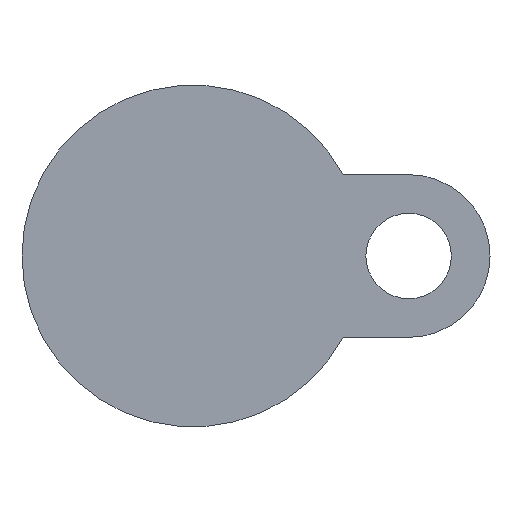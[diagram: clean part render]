
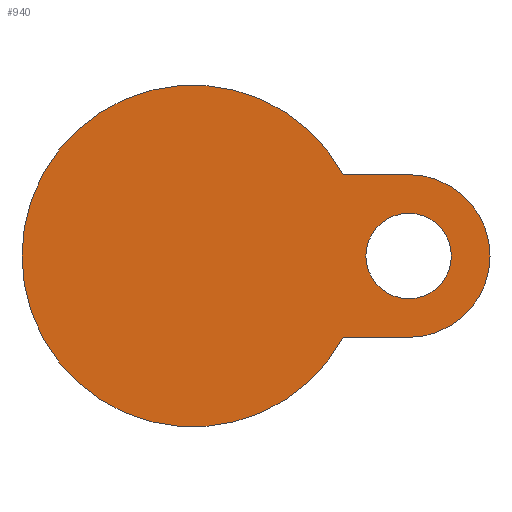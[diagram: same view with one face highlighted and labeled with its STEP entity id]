
A CAD part, front view. The second image highlights one B-rep face of the part: STEP entity #940.
In plain terms, the highlighted planar face has unit normal (0, -1, 0).
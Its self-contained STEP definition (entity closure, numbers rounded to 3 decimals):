
#57 = CARTESIAN_POINT ( 'NONE',  ( 21.25, -12., 0. ) ) ;
#213 = VERTEX_POINT ( 'NONE', #255 ) ;
#217 = DIRECTION ( 'NONE',  ( 1., 0., 0. ) ) ;
#255 = CARTESIAN_POINT ( 'NONE',  ( 26.5, -12., 10. ) ) ;
#502 = CIRCLE ( 'NONE', #4614, 21. ) ;
#578 = EDGE_CURVE ( 'NONE', #5504, #2635, #502, .T. ) ;
#601 = DIRECTION ( 'NONE',  ( 0., 1., 0. ) ) ;
#697 = DIRECTION ( 'NONE',  ( 1., 0., 0. ) ) ;
#888 = CARTESIAN_POINT ( 'NONE',  ( 26.5, -12., 0. ) ) ;
#940 = ADVANCED_FACE ( 'NONE', ( #3807, #2116 ), #4204, .T. ) ;
#955 = DIRECTION ( 'NONE',  ( -1., 0., 0. ) ) ;
#975 = DIRECTION ( 'NONE',  ( 0., -1., 0. ) ) ;
#1016 = EDGE_CURVE ( 'NONE', #5241, #2957, #3891, .T. ) ;
#1053 = CARTESIAN_POINT ( 'NONE',  ( 11.379, -12., 10. ) ) ;
#1131 = CIRCLE ( 'NONE', #3194, 5.25 ) ;
#1134 = DIRECTION ( 'NONE',  ( 1., 0., 0. ) ) ;
#1175 = DIRECTION ( 'NONE',  ( 0., -1., 0. ) ) ;
#1252 = ORIENTED_EDGE ( 'NONE', *, *, #2092, .T. ) ;
#1263 = CARTESIAN_POINT ( 'NONE',  ( 18.466, -12., -10. ) ) ;
#1354 = CARTESIAN_POINT ( 'NONE',  ( -21., -12., 0. ) ) ;
#1445 = LINE ( 'NONE', #1053, #4009 ) ;
#1536 = DIRECTION ( 'NONE',  ( 0., -1., 0. ) ) ;
#1612 = ORIENTED_EDGE ( 'NONE', *, *, #3061, .F. ) ;
#1642 = ORIENTED_EDGE ( 'NONE', *, *, #578, .F. ) ;
#1702 = CARTESIAN_POINT ( 'NONE',  ( 26.5, -12., -10. ) ) ;
#1722 = ORIENTED_EDGE ( 'NONE', *, *, #1016, .T. ) ;
#1758 = DIRECTION ( 'NONE',  ( 1., 0., 0. ) ) ;
#1792 = CIRCLE ( 'NONE', #4839, 5.25 ) ;
#1852 = ORIENTED_EDGE ( 'NONE', *, *, #4575, .T. ) ;
#1884 = DIRECTION ( 'NONE',  ( -1., 0., 0. ) ) ;
#1886 = AXIS2_PLACEMENT_3D ( 'NONE', #888, #2396, #1134 ) ;
#1936 = EDGE_CURVE ( 'NONE', #4084, #5399, #1131, .T. ) ;
#1942 = CARTESIAN_POINT ( 'NONE',  ( 36.5, -12., 0. ) ) ;
#2058 = AXIS2_PLACEMENT_3D ( 'NONE', #4818, #2768, #5317 ) ;
#2071 = CARTESIAN_POINT ( 'NONE',  ( 18.466, -12., 10. ) ) ;
#2092 = EDGE_CURVE ( 'NONE', #213, #2635, #1445, .T. ) ;
#2116 = FACE_BOUND ( 'NONE', #3501, .T. ) ;
#2167 = DIRECTION ( 'NONE',  ( 1., 0., 0. ) ) ;
#2241 = AXIS2_PLACEMENT_3D ( 'NONE', #3128, #975, #2167 ) ;
#2257 = CARTESIAN_POINT ( 'NONE',  ( 26.5, -12., -10. ) ) ;
#2305 = VERTEX_POINT ( 'NONE', #1942 ) ;
#2396 = DIRECTION ( 'NONE',  ( 0., -1., 0. ) ) ;
#2445 = ORIENTED_EDGE ( 'NONE', *, *, #2992, .F. ) ;
#2466 = VECTOR ( 'NONE', #1758, 1000. ) ;
#2635 = VERTEX_POINT ( 'NONE', #2071 ) ;
#2768 = DIRECTION ( 'NONE',  ( 0., 1., 0. ) ) ;
#2779 = CARTESIAN_POINT ( 'NONE',  ( 31.75, -12., 0. ) ) ;
#2957 = VERTEX_POINT ( 'NONE', #1702 ) ;
#2992 = EDGE_CURVE ( 'NONE', #5399, #4084, #1792, .T. ) ;
#3061 = EDGE_CURVE ( 'NONE', #5241, #5504, #3763, .T. ) ;
#3128 = CARTESIAN_POINT ( 'NONE',  ( 26.5, -12., 0. ) ) ;
#3141 = CARTESIAN_POINT ( 'NONE',  ( 0., -12., 0. ) ) ;
#3194 = AXIS2_PLACEMENT_3D ( 'NONE', #5030, #1536, #697 ) ;
#3222 = ORIENTED_EDGE ( 'NONE', *, *, #1936, .F. ) ;
#3449 = AXIS2_PLACEMENT_3D ( 'NONE', #4253, #1175, #5119 ) ;
#3501 = EDGE_LOOP ( 'NONE', ( #3222, #2445 ) ) ;
#3763 = CIRCLE ( 'NONE', #2058, 21. ) ;
#3807 = FACE_OUTER_BOUND ( 'NONE', #4743, .T. ) ;
#3891 = LINE ( 'NONE', #2257, #2466 ) ;
#4009 = VECTOR ( 'NONE', #1884, 1000. ) ;
#4011 = CARTESIAN_POINT ( 'NONE',  ( 26.5, -12., 0. ) ) ;
#4064 = DIRECTION ( 'NONE',  ( 0., -1., 0. ) ) ;
#4084 = VERTEX_POINT ( 'NONE', #2779 ) ;
#4204 = PLANE ( 'NONE',  #3449 ) ;
#4253 = CARTESIAN_POINT ( 'NONE',  ( 0., -12., 0. ) ) ;
#4303 = CIRCLE ( 'NONE', #1886, 10. ) ;
#4575 = EDGE_CURVE ( 'NONE', #2957, #2305, #5466, .T. ) ;
#4614 = AXIS2_PLACEMENT_3D ( 'NONE', #3141, #601, #955 ) ;
#4677 = EDGE_CURVE ( 'NONE', #2305, #213, #4303, .T. ) ;
#4743 = EDGE_LOOP ( 'NONE', ( #1612, #1722, #1852, #5480, #1252, #1642 ) ) ;
#4818 = CARTESIAN_POINT ( 'NONE',  ( 0., -12., 0. ) ) ;
#4839 = AXIS2_PLACEMENT_3D ( 'NONE', #4011, #4064, #217 ) ;
#5030 = CARTESIAN_POINT ( 'NONE',  ( 26.5, -12., 0. ) ) ;
#5119 = DIRECTION ( 'NONE',  ( 1., 0., 0. ) ) ;
#5241 = VERTEX_POINT ( 'NONE', #1263 ) ;
#5317 = DIRECTION ( 'NONE',  ( -1., 0., 0. ) ) ;
#5399 = VERTEX_POINT ( 'NONE', #57 ) ;
#5466 = CIRCLE ( 'NONE', #2241, 10. ) ;
#5480 = ORIENTED_EDGE ( 'NONE', *, *, #4677, .T. ) ;
#5504 = VERTEX_POINT ( 'NONE', #1354 ) ;
